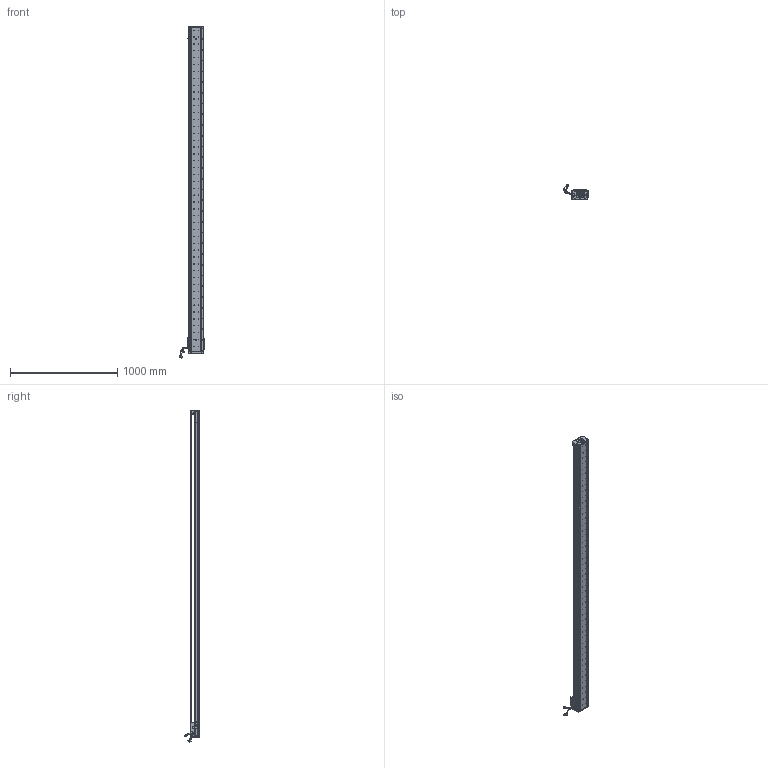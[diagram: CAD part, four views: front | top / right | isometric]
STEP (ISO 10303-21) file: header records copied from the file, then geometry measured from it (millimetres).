
FILE_DESCRIPTION (( 'STEP AP203' ), '1' );
FILE_NAME ('Z1-RY140D-1-L500-B-K.SLDASM_2850.step', '2021-05-17T07:36:54', ( '盈信电脑' ), ( '东莞市道滘镇水果街19号' ), 'SwSTEP 2.0', 'SolidWorks 2016', '' );
FILE_SCHEMA (( 'CONFIG_CONTROL_DESIGN' ));
Length unit declared in the file: millimetre
Products named in the file (36): HARNESS-Part-1; 榋妏寠巭燃_暯_M2_2; HOLDER0; SCREW-M1.7; SCALE-Part-2; 覜茼ん672; Z1-RY140-L500直线电机模组底座_2850; HARNESS-Part-2; 140-Z-臏賑輸盄裔(21遴); 080黍杅芛假蚾釱21遴; SCREW-M1.7-1; Z-RY140感应器672光电感应片; SCREW-M1.6; Z1-RY140-L500詩湍100mm遵_2850; SEAL; SCALE-Part-1; Z1-RY140D-1-L500-B-K.SLDASM_2850; Z-RY140詩湍奻揤裔; Z-RY140詩湍狟揤裔; HARNESS; PBU_SHEET; Z-140詩湍傷裔啣; Z1-RY140圉猾敕臏賑輸(21遴); 140蚥薯蝶輸; COVER; LABEL; SCREW-M1.6-3; 140雄赽晤鎢ん堤盄; SCREW-M1.6-1; SCALE; LABEL-Part-1; SHIELDPLATE; PSLH080_PSLF2; SCREW-M1.6-2; SEAL-Part-1; COVER-Part-1
Assembly tree (41 placements, depth 4):
  Z1-RY140D-1-L500-B-K.SLDASM_2850
    Z1-RY140-L500直线电机模组底座_2850
    Z-RY140感应器672光电感应片
    Z1-RY140圉猾敕臏賑輸(21遴)
    覜茼ん672  x3
    Z1-RY140-L500詩湍100mm遵_2850
    PSLH080_PSLF2
      SCALE
        SCALE-Part-1
        SCALE-Part-2
      HARNESS
        HARNESS-Part-1
        HARNESS-Part-2
      LABEL
        LABEL-Part-1
      COVER
        COVER-Part-1
      SEAL
        SEAL-Part-1
      榋妏寠巭燃_暯_M2_2
      SHIELDPLATE
      SCREW-M1.7
      SCREW-M1.7-1
      PBU_SHEET
      SCREW-M1.6
      SCREW-M1.6-1
      SCREW-M1.6-2
      SCREW-M1.6-3
      HOLDER0
    080黍杅芛假蚾釱21遴
    140-Z-臏賑輸盄裔(21遴)
    Z-140詩湍傷裔啣  x2
    Z-RY140詩湍狟揤裔  x2
    Z-RY140詩湍奻揤裔  x2
    140蚥薯蝶輸  x2
    140雄赽晤鎢ん堤盄
Bounding box: 239.79 x 143.88 x 3090.87 mm (x, y, z)
Volume: 9347479.7 mm3; surface area: 2479177 mm2
Topology: 36 solids, 36 shells, 4380 faces, 12018 edges, 7625 vertices
Faces by surface type: cylinder 2428, plane 1428, cone 402, torus 69, bspline 53
Entity records: 141506 total; most frequent: CARTESIAN_POINT 41183, ORIENTED_EDGE 20924, DIRECTION 18970, EDGE_CURVE 10462, AXIS2_PLACEMENT_3D 7044, VERTEX_POINT 6793, VECTOR 4882, LINE 4882
